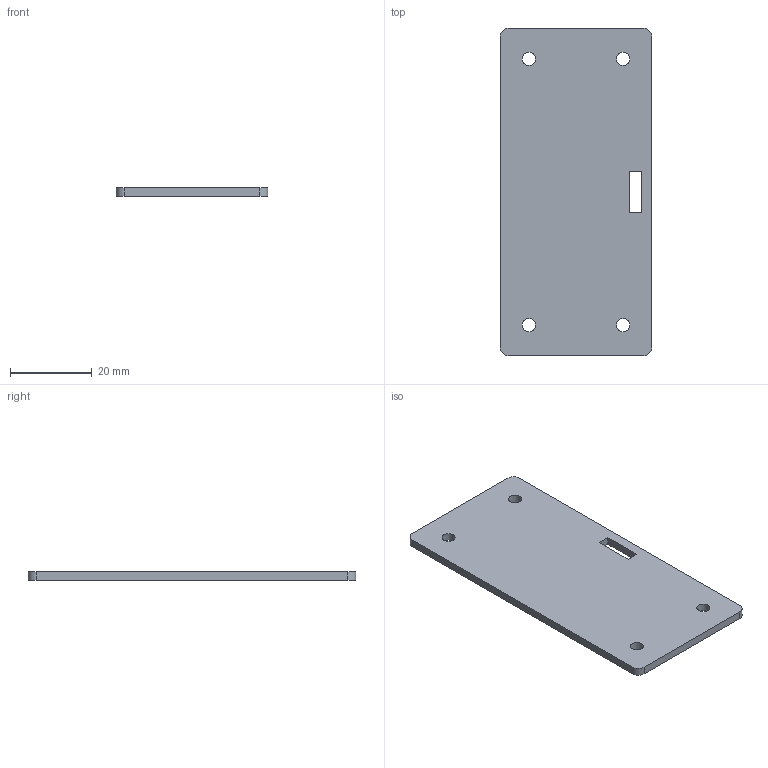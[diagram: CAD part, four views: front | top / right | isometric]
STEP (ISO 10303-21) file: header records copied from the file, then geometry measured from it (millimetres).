
FILE_DESCRIPTION(('Open CASCADE Model'),'2;1');
FILE_NAME('Open CASCADE Shape Model','2026-11-20T16:45:09',('Author'),( 'Open CASCADE'),'Open CASCADE STEP processor 7.9','Open CASCADE 7.9' ,'Unknown');
FILE_SCHEMA(('AUTOMOTIVE_DESIGN { 1 0 10303 214 1 1 1 1 }'));
Length unit declared in the file: millimetre
Products named in the file (1): Open CASCADE STEP translator 7.9 1
Bounding box: 37 x 80 x 2 mm (x, y, z)
Volume: 5788.8 mm3; surface area: 6382.4 mm2
Topology: 1 solids, 1 shells, 18 faces, 48 edges, 32 vertices
Faces by surface type: plane 10, cylinder 8
Full cylindrical faces by diameter (mm): 3.2 x4
Entity records: 1242 total; most frequent: CARTESIAN_POINT 283, DIRECTION 170, ORIENTED_EDGE 96, LINE 96, VECTOR 96, PCURVE 96, DEFINITIONAL_REPRESENTATION 96, EDGE_CURVE 48
